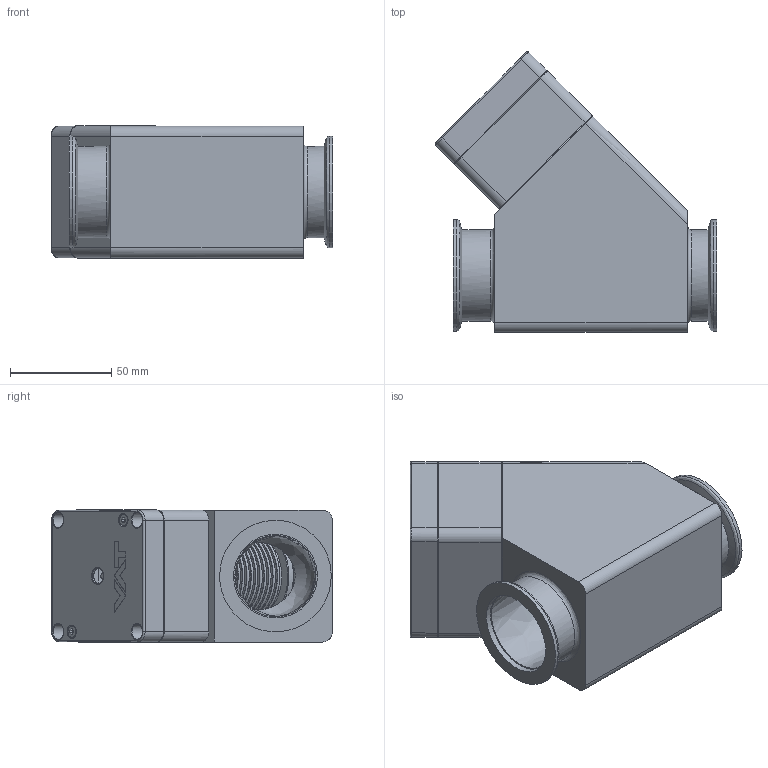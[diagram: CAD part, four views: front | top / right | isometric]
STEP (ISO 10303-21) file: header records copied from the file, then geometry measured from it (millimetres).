
FILE_DESCRIPTION((''),'2;1');
FILE_NAME('O:\MT\MT\Systeme\Cad\Datenexporte\www_vat_ch\256299.stp','2004-11-18T14:23:45',('User'),('SDRC'),'I-DEAS Master Series 9','UNIX','Yes');
FILE_SCHEMA(('CONFIG_CONTROL_DESIGN'));
Length unit declared in the file: millimetre
Assembly tree (14 placements, depth 0):
Bounding box: 138.81 x 138.27 x 65.07 mm (x, y, z)
Volume: 383523.5 mm3; surface area: 203142.8 mm2
Topology: 21 solids, 21 shells, 695 faces, 1537 edges, 1003 vertices
Faces by surface type: bspline 695
Entity records: 27761 total; most frequent: CARTESIAN_POINT 17707, ORIENTED_EDGE 2750, EDGE_CURVE 1375, VERTEX_POINT 896, EDGE_LOOP 765, FACE_OUTER_BOUND 620, ADVANCED_FACE 620, B_SPLINE_CURVE_WITH_KNOTS 568
